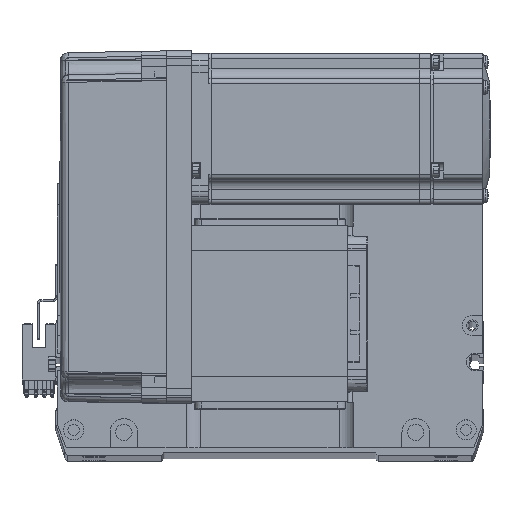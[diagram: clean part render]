
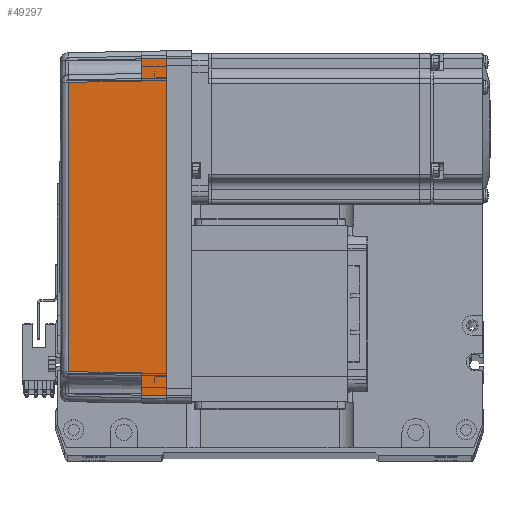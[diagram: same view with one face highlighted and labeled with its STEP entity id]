
A CAD part, top view. The second image highlights one B-rep face of the part: STEP entity #49297.
In plain terms, the highlighted planar face has unit normal (-0.018, 0, 1) as drawn and (0, 1, 0.017) by its records, which use the part's own axes.
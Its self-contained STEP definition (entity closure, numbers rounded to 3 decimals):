
#302 = ORIENTED_EDGE ( 'NONE', *, *, #41941, .T. ) ;
#705 = VECTOR ( 'NONE', #21040, 1000. ) ;
#1882 = LINE ( 'NONE', #15588, #59652 ) ;
#3311 = B_SPLINE_CURVE_WITH_KNOTS ( 'NONE', 3,
 ( #31910, #57425, #36938, #7016 ),
 .UNSPECIFIED., .F., .F.,
 ( 4, 4 ),
 ( 0., 1. ),
 .UNSPECIFIED. ) ;
#7016 = CARTESIAN_POINT ( 'NONE',  ( 57.495, 35.32, 38.985 ) ) ;
#8055 = EDGE_CURVE ( 'NONE', #19770, #36658, #11667, .T. ) ;
#8146 = ORIENTED_EDGE ( 'NONE', *, *, #8055, .T. ) ;
#8394 = CARTESIAN_POINT ( 'NONE',  ( 70., 36., 0. ) ) ;
#9633 = CARTESIAN_POINT ( 'NONE',  ( 67.001, 36.001, -0.052 ) ) ;
#9700 = VECTOR ( 'NONE', #26557, 1000. ) ;
#9820 = DIRECTION ( 'NONE',  ( 0.017, 0.017, -1. ) ) ;
#11667 = LINE ( 'NONE', #26089, #35114 ) ;
#11702 = CARTESIAN_POINT ( 'NONE',  ( -58., 35.825, 10. ) ) ;
#15588 = CARTESIAN_POINT ( 'NONE',  ( 70., 35.825, 10. ) ) ;
#17279 = VERTEX_POINT ( 'NONE', #42390 ) ;
#18350 = AXIS2_PLACEMENT_3D ( 'NONE', #8394, #33945, #43070 ) ;
#19715 = VERTEX_POINT ( 'NONE', #39579 ) ;
#19770 = VERTEX_POINT ( 'NONE', #45025 ) ;
#21040 = DIRECTION ( 'NONE',  ( 1., 0., 0. ) ) ;
#22365 = VECTOR ( 'NONE', #9820, 1000. ) ;
#22502 = CARTESIAN_POINT ( 'NONE',  ( 57.495, 35.32, 38.985 ) ) ;
#23738 = VERTEX_POINT ( 'NONE', #49267 ) ;
#26089 = CARTESIAN_POINT ( 'NONE',  ( -67., 36., 0. ) ) ;
#26194 = CARTESIAN_POINT ( 'NONE',  ( 0., 36., 0. ) ) ;
#26557 = DIRECTION ( 'NONE',  ( 0.017, -0.017, 1. ) ) ;
#27409 = ORIENTED_EDGE ( 'NONE', *, *, #38399, .T. ) ;
#31840 = DIRECTION ( 'NONE',  ( 1., 0., 0. ) ) ;
#31910 = CARTESIAN_POINT ( 'NONE',  ( -57.495, 35.32, 38.985 ) ) ;
#33906 = VERTEX_POINT ( 'NONE', #35497 ) ;
#33945 = DIRECTION ( 'NONE',  ( 0., 1., 0.017 ) ) ;
#34816 = VERTEX_POINT ( 'NONE', #51956 ) ;
#35114 = VECTOR ( 'NONE', #56161, 1000. ) ;
#35144 = CARTESIAN_POINT ( 'NONE',  ( 57.495, 35.32, 38.985 ) ) ;
#35497 = CARTESIAN_POINT ( 'NONE',  ( 66.826, 35.825, 10. ) ) ;
#36392 = EDGE_CURVE ( 'NONE', #17279, #34816, #44869, .T. ) ;
#36658 = VERTEX_POINT ( 'NONE', #47325 ) ;
#36757 = VECTOR ( 'NONE', #31840, 1000. ) ;
#36938 = CARTESIAN_POINT ( 'NONE',  ( 19.165, 35.316, 39.181 ) ) ;
#38399 = EDGE_CURVE ( 'NONE', #36658, #17279, #1882, .T. ) ;
#39579 = CARTESIAN_POINT ( 'NONE',  ( 67., 36., 0. ) ) ;
#41941 = EDGE_CURVE ( 'NONE', #23738, #33906, #57687, .T. ) ;
#42390 = CARTESIAN_POINT ( 'NONE',  ( -58., 35.825, 10. ) ) ;
#43070 = DIRECTION ( 'NONE',  ( 0., -0.017, 1. ) ) ;
#43964 = ORIENTED_EDGE ( 'NONE', *, *, #51731, .F. ) ;
#44173 = ORIENTED_EDGE ( 'NONE', *, *, #61811, .F. ) ;
#44869 = LINE ( 'NONE', #11702, #9700 ) ;
#45017 = LINE ( 'NONE', #35144, #22365 ) ;
#45025 = CARTESIAN_POINT ( 'NONE',  ( -67., 36., 0. ) ) ;
#45706 = FACE_OUTER_BOUND ( 'NONE', #51136, .T. ) ;
#46087 = VECTOR ( 'NONE', #59160, 1000. ) ;
#47325 = CARTESIAN_POINT ( 'NONE',  ( -66.826, 35.825, 10. ) ) ;
#49267 = CARTESIAN_POINT ( 'NONE',  ( 58., 35.825, 10. ) ) ;
#49297 = ADVANCED_FACE ( 'NONE', ( #45706 ), #53098, .T. ) ;
#49601 = ORIENTED_EDGE ( 'NONE', *, *, #63677, .T. ) ;
#50006 = LINE ( 'NONE', #26194, #36757 ) ;
#51136 = EDGE_LOOP ( 'NONE', ( #8146, #27409, #51591, #49601, #61088, #302, #44173, #43964 ) ) ;
#51591 = ORIENTED_EDGE ( 'NONE', *, *, #36392, .T. ) ;
#51731 = EDGE_CURVE ( 'NONE', #19770, #19715, #50006, .T. ) ;
#51956 = CARTESIAN_POINT ( 'NONE',  ( -57.495, 35.32, 38.985 ) ) ;
#53098 = PLANE ( 'NONE',  #18350 ) ;
#54829 = EDGE_CURVE ( 'NONE', #63642, #23738, #45017, .T. ) ;
#55554 = DIRECTION ( 'NONE',  ( 1., 0., 0. ) ) ;
#56161 = DIRECTION ( 'NONE',  ( 0.017, -0.017, 1. ) ) ;
#56189 = CARTESIAN_POINT ( 'NONE',  ( 70., 35.825, 10. ) ) ;
#56217 = LINE ( 'NONE', #9633, #46087 ) ;
#57425 = CARTESIAN_POINT ( 'NONE',  ( -19.165, 35.316, 39.181 ) ) ;
#57687 = LINE ( 'NONE', #56189, #705 ) ;
#59160 = DIRECTION ( 'NONE',  ( -0.017, -0.017, 1. ) ) ;
#59652 = VECTOR ( 'NONE', #55554, 1000. ) ;
#61088 = ORIENTED_EDGE ( 'NONE', *, *, #54829, .T. ) ;
#61811 = EDGE_CURVE ( 'NONE', #19715, #33906, #56217, .T. ) ;
#63642 = VERTEX_POINT ( 'NONE', #22502 ) ;
#63677 = EDGE_CURVE ( 'NONE', #34816, #63642, #3311, .T. ) ;
